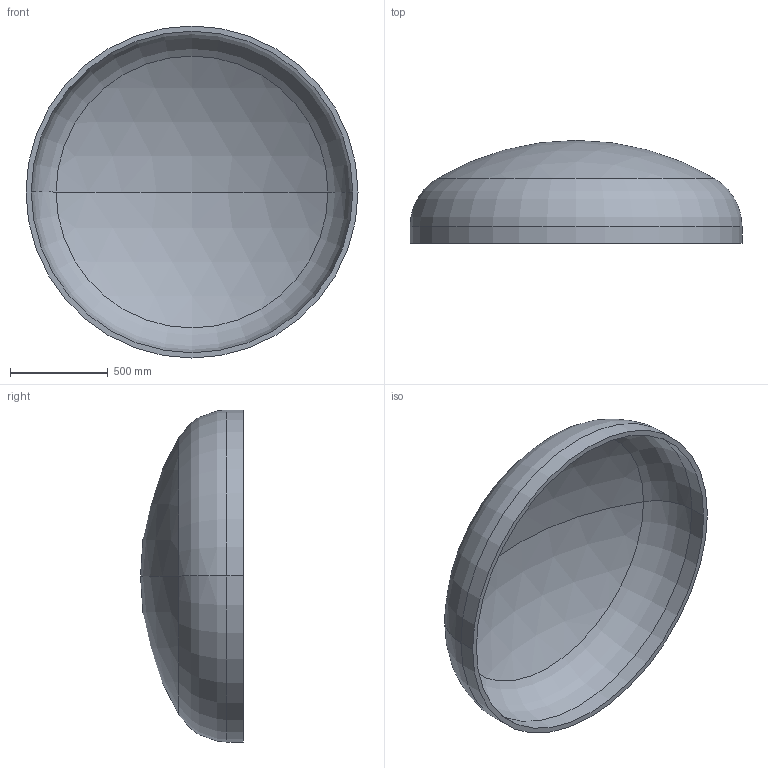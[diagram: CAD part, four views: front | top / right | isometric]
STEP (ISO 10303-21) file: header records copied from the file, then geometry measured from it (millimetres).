
FILE_DESCRIPTION (( 'STEP AP203' ), '1' );
FILE_NAME ('DIN 28013 Korbbogenform_-_Boden DIN 28013 - 1700 x 85 - I - s=27.step', '2016-07-01T11:43:18', ( '' ), ( '' ), 'SwSTEP 2.0', 'SolidWorks 2013', '' );
FILE_SCHEMA (( 'CONFIG_CONTROL_DESIGN' ));
Length unit declared in the file: millimetre
Products named in the file (1): DIN 28013 Korbbogenform_-_Boden DIN 28013 - 1700 x 85 - I - s=27
Bounding box: 1700 x 527 x 1700 mm (x, y, z)
Volume: 95066791.8 mm3; surface area: 7185417.9 mm2
Topology: 1 solids, 1 shells, 13 faces, 24 edges, 14 vertices
Faces by surface type: torus 4, cylinder 4, sphere 4, plane 1
Entity records: 407 total; most frequent: DIRECTION 72, CARTESIAN_POINT 52, ORIENTED_EDGE 48, AXIS2_PLACEMENT_3D 34, EDGE_CURVE 24, CIRCLE 20, EDGE_LOOP 14, VERTEX_POINT 14
